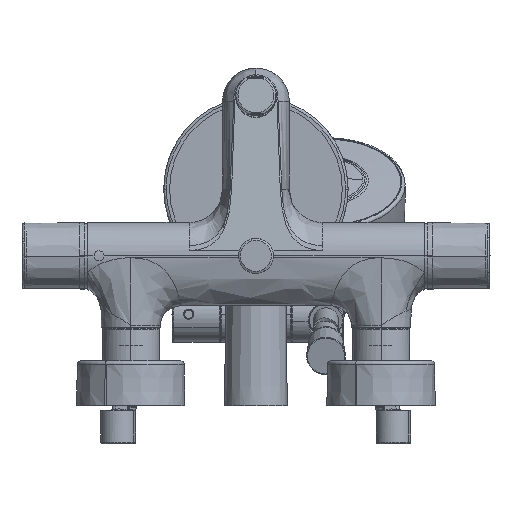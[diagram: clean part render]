
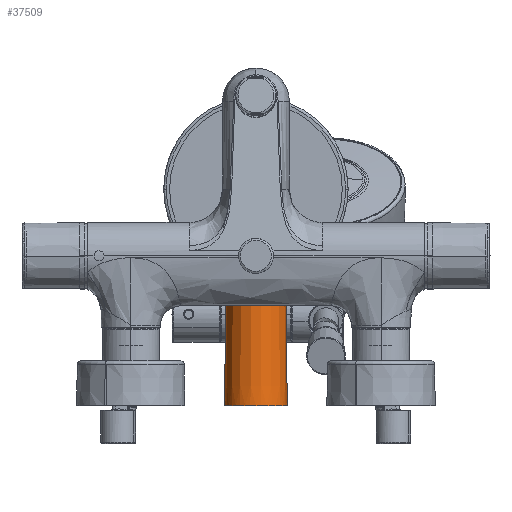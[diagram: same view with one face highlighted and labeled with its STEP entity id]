
A CAD part, front view. The second image highlights one B-rep face of the part: STEP entity #37509.
In plain terms, the highlighted conical face has half-angle 0.5 degrees and reference radius 18.104 mm.
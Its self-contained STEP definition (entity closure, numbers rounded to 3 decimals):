
#144 = FACE_OUTER_BOUND ( 'NONE', #1824, .T. ) ;
#1795 = DIRECTION ( 'NONE',  ( 0.009, 0., -1. ) ) ;
#1824 = EDGE_LOOP ( 'NONE', ( #38794, #35163, #14035, #3583, #35536 ) ) ;
#1917 = CARTESIAN_POINT ( 'NONE',  ( 0.001, 0.499, 73.504 ) ) ;
#3583 = ORIENTED_EDGE ( 'NONE', *, *, #7307, .F. ) ;
#4200 = CIRCLE ( 'NONE', #7431, 18.104 ) ;
#4449 = EDGE_CURVE ( 'NONE', #8239, #34604, #25636, .T. ) ;
#4717 = CARTESIAN_POINT ( 'NONE',  ( 0.001, 0.499, 73.504 ) ) ;
#6459 = DIRECTION ( 'NONE',  ( 1., 0., 0. ) ) ;
#6484 = LINE ( 'NONE', #28007, #9105 ) ;
#7307 = EDGE_CURVE ( 'NONE', #34478, #16400, #6484, .T. ) ;
#7431 = AXIS2_PLACEMENT_3D ( 'NONE', #4717, #28068, #31244 ) ;
#7921 = AXIS2_PLACEMENT_3D ( 'NONE', #1917, #24808, #14484 ) ;
#8239 = VERTEX_POINT ( 'NONE', #12722 ) ;
#8441 = CARTESIAN_POINT ( 'NONE',  ( 18.746, 0.499, 0. ) ) ;
#9105 = VECTOR ( 'NONE', #1795, 1000. ) ;
#9417 = CIRCLE ( 'NONE', #18725, 18.104 ) ;
#10586 = CARTESIAN_POINT ( 'NONE',  ( -18.745, 0.499, 0. ) ) ;
#12410 = DIRECTION ( 'NONE',  ( -1., 0., 0. ) ) ;
#12688 = DIRECTION ( 'NONE',  ( 0., 0., 1. ) ) ;
#12722 = CARTESIAN_POINT ( 'NONE',  ( -18.104, 0.499, 73.504 ) ) ;
#14035 = ORIENTED_EDGE ( 'NONE', *, *, #34801, .T. ) ;
#14447 = EDGE_CURVE ( 'NONE', #23025, #34478, #9417, .T. ) ;
#14484 = DIRECTION ( 'NONE',  ( 1., 0., 0. ) ) ;
#15701 = EDGE_CURVE ( 'NONE', #8239, #23025, #4200, .T. ) ;
#16400 = VERTEX_POINT ( 'NONE', #8441 ) ;
#16646 = CARTESIAN_POINT ( 'NONE',  ( 18.105, 0.499, 73.504 ) ) ;
#17175 = CARTESIAN_POINT ( 'NONE',  ( 18.104, 0.333, 73.504 ) ) ;
#18725 = AXIS2_PLACEMENT_3D ( 'NONE', #19861, #12688, #6459 ) ;
#19861 = CARTESIAN_POINT ( 'NONE',  ( 0.001, 0.499, 73.504 ) ) ;
#21366 = DIRECTION ( 'NONE',  ( -0.009, 0., -1. ) ) ;
#21884 = CARTESIAN_POINT ( 'NONE',  ( 0.001, 0.499, 0. ) ) ;
#23025 = VERTEX_POINT ( 'NONE', #17175 ) ;
#24808 = DIRECTION ( 'NONE',  ( 0., 0., -1. ) ) ;
#25341 = CONICAL_SURFACE ( 'NONE', #7921, 18.104, 0.009 ) ;
#25636 = LINE ( 'NONE', #34887, #42099 ) ;
#28007 = CARTESIAN_POINT ( 'NONE',  ( 18.105, 0.499, 73.504 ) ) ;
#28068 = DIRECTION ( 'NONE',  ( 0., 0., 1. ) ) ;
#31090 = AXIS2_PLACEMENT_3D ( 'NONE', #21884, #38583, #12410 ) ;
#31244 = DIRECTION ( 'NONE',  ( 1., 0., 0. ) ) ;
#34478 = VERTEX_POINT ( 'NONE', #16646 ) ;
#34604 = VERTEX_POINT ( 'NONE', #10586 ) ;
#34801 = EDGE_CURVE ( 'NONE', #34604, #16400, #37781, .T. ) ;
#34887 = CARTESIAN_POINT ( 'NONE',  ( -18.104, 0.499, 73.504 ) ) ;
#35163 = ORIENTED_EDGE ( 'NONE', *, *, #4449, .T. ) ;
#35536 = ORIENTED_EDGE ( 'NONE', *, *, #14447, .F. ) ;
#37509 = ADVANCED_FACE ( 'NONE', ( #144 ), #25341, .T. ) ;
#37781 = CIRCLE ( 'NONE', #31090, 18.746 ) ;
#38583 = DIRECTION ( 'NONE',  ( 0., 0., 1. ) ) ;
#38794 = ORIENTED_EDGE ( 'NONE', *, *, #15701, .F. ) ;
#42099 = VECTOR ( 'NONE', #21366, 1000. ) ;
